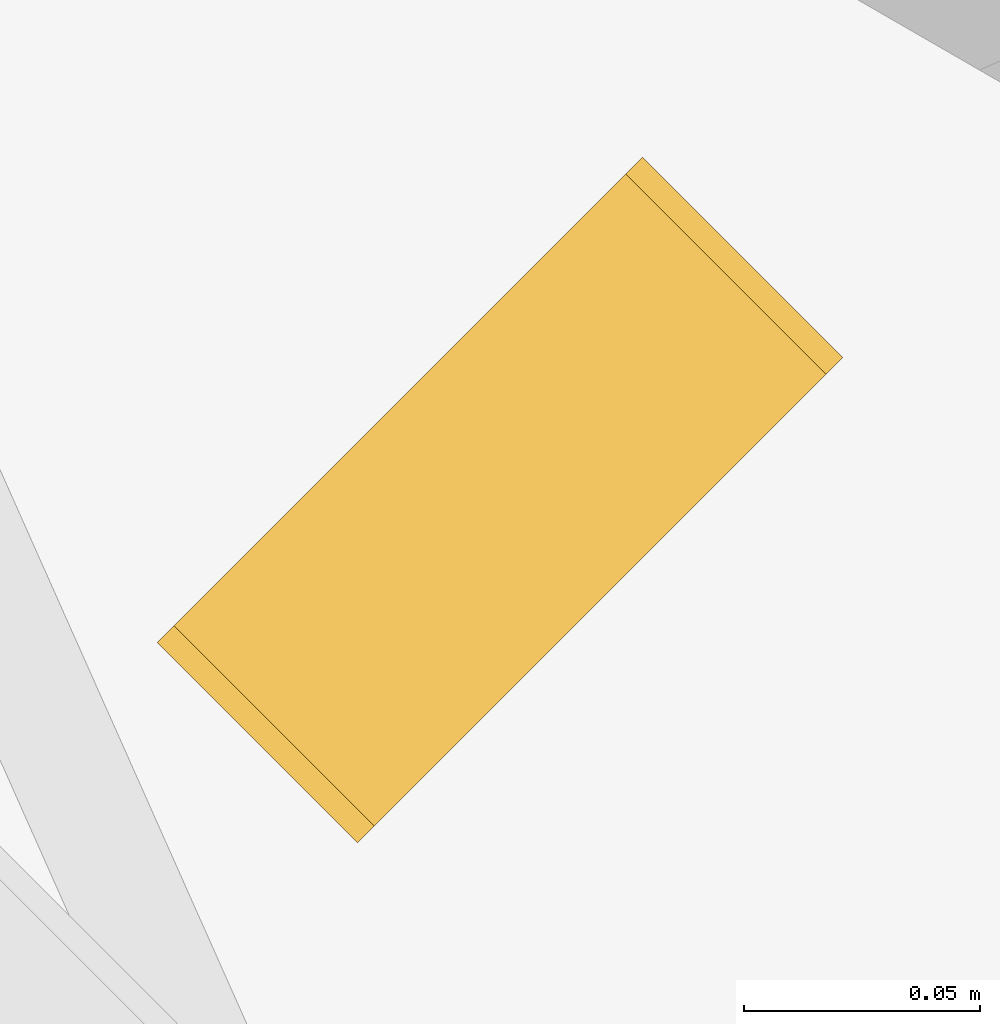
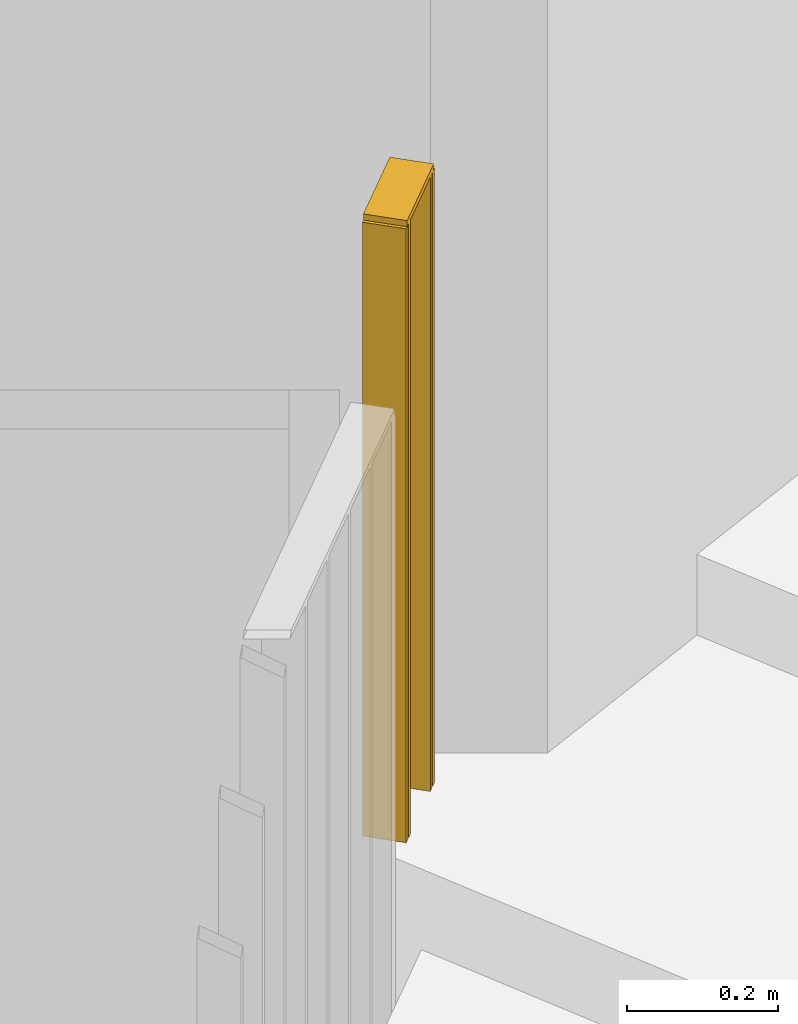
# One storey, part 17 of 19: 1 railing.
"""IFC2X3 building model written with IfcOpenShell, lengths in millimetres."""

import ifcopenshell
import ifcopenshell.guid

model = None  # the IFC model being written
_history = None  # IfcOwnerHistory: only IFC2X3 demands one
_inside = {}  # id of a spatial element -> (the spatial element, [elements in it])
_under = {}  # id of a project, library or spatial element -> (it, [spatial elements below it])
_declared = {}  # id of a project -> (the project, [libraries it declares])
_typed = {}  # id of a type object -> (the type object, [elements of that type])
_made_of = {}  # id of a material, layer set ... -> (it, [elements and type objects made of it])


def new_model(schema):
    """Start an empty IFC model of exactly this schema.

    Asked for "IFC4X3", IfcOpenShell would pick the latest addendum, in which some entities
    have other attributes; the version numbers below select the first issue.
    IFC2X3 requires an IfcOwnerHistory on every rooted entity: one is made here for all.
    """
    global model, _history
    if schema == "IFC4X3":
        model = ifcopenshell.file(schema_version=(4, 3, 0, 0))
    else:
        model = ifcopenshell.file(schema=schema)
    _inside.clear()
    _under.clear()
    _declared.clear()
    _typed.clear()
    _made_of.clear()
    _history = None
    if model.schema == "IFC2X3":
        org = make("IfcOrganization", Name="unknown")
        user = make(
            "IfcPersonAndOrganization",
            ThePerson=make("IfcPerson", FamilyName="unknown"),
            TheOrganization=org,
        )
        app = make(
            "IfcApplication",
            ApplicationDeveloper=org,
            Version="unknown",
            ApplicationFullName="unknown",
            ApplicationIdentifier="unknown",
        )
        _history = make(
            "IfcOwnerHistory",
            OwningUser=user,
            OwningApplication=app,
            ChangeAction="ADDED",
            CreationDate=0,
        )
    return model


def make(cls, **values):
    """One entity of the class cls with the attributes given. An attribute that is None is left unset."""
    return model.create_entity(
        cls, **{name: value for name, value in values.items() if value is not None}
    )


def entity(cls, *values):
    """Any entity or typed value of the class cls, its attributes in the order of the schema. None: left unset."""
    e = model.create_entity(cls)
    for i, value in enumerate(values):
        if value is not None:
            e[i] = value
    return e


def rooted(cls, **values):
    """An entity with a GlobalId (a new one), such as an element, a storey or a relation."""
    return make(cls, GlobalId=ifcopenshell.guid.new(), OwnerHistory=_history, **values)


def si_unit(unit_type, name, prefix=None):
    """IfcSIUnit, for example si_unit("LENGTHUNIT", "METRE", prefix="MILLI")."""
    return make("IfcSIUnit", UnitType=unit_type, Prefix=prefix, Name=name)


def converted_unit(unit_type, name, factor, base, dimensions=None, offset=None):
    """IfcConversionBasedUnit, such as the inch: factor (a typed value) times the base unit."""
    return make(
        "IfcConversionBasedUnit"
        if offset is None
        else "IfcConversionBasedUnitWithOffset",
        ConversionOffset=offset,
        Dimensions=None
        if dimensions is None
        else entity("IfcDimensionalExponents", *dimensions),
        UnitType=unit_type,
        Name=name,
        ConversionFactor=make(
            "IfcMeasureWithUnit", ValueComponent=factor, UnitComponent=base
        ),
    )


def derived_unit(unit_type, elements):
    """IfcDerivedUnit: a product of units, each with its exponent."""
    return make(
        "IfcDerivedUnit",
        Elements=[
            make("IfcDerivedUnitElement", Unit=unit, Exponent=power)
            for unit, power in elements
        ],
        UnitType=unit_type,
    )


def assignment(units):
    """IfcUnitAssignment: the units of a project."""
    return None if units is None else make("IfcUnitAssignment", Units=units)


def point(xyz):
    """IfcCartesianPoint."""
    return None if xyz is None else make("IfcCartesianPoint", Coordinates=xyz)


def direction(xyz):
    """IfcDirection."""
    return None if xyz is None else make("IfcDirection", DirectionRatios=xyz)


def frame(location, z_axis=None, x_axis=None):
    """IfcAxis2Placement3D, a coordinate frame: its origin and axes. An axis left out is left unset."""
    return make(
        "IfcAxis2Placement3D",
        Location=point(location),
        Axis=direction(z_axis),
        RefDirection=direction(x_axis),
    )


def frame_2d(location, x_axis=None):
    """IfcAxis2Placement2D, a coordinate frame in the plane: its origin and x axis."""
    return make(
        "IfcAxis2Placement2D", Location=point(location), RefDirection=direction(x_axis)
    )


def origin():
    """The frame at (0, 0, 0) with its axes left unset."""
    return frame((0.0, 0.0, 0.0))


def origin_2d_with_axis():
    """The frame at (0, 0) in the plane with the x axis (1, 0) written out."""
    return frame_2d((0.0, 0.0), x_axis=(1.0, 0.0))


def place(relative_to, where):
    """IfcLocalPlacement: puts the frame where relative to a parent placement (None: the world)."""
    return make(
        "IfcLocalPlacement", PlacementRelTo=relative_to, RelativePlacement=where
    )


def context(
    kind, dimensions, precision=None, world=None, true_north=None, identifier=None
):
    """IfcGeometricRepresentationContext, for example the 3D "Model" context."""
    return make(
        "IfcGeometricRepresentationContext",
        ContextIdentifier=identifier,
        ContextType=kind,
        CoordinateSpaceDimension=dimensions,
        Precision=precision,
        WorldCoordinateSystem=world,
        TrueNorth=true_north,
    )


def subcontext(parent, identifier, kind, view, scale=None):
    """IfcGeometricRepresentationSubContext, for example "Body" below "Model"."""
    return make(
        "IfcGeometricRepresentationSubContext",
        ContextIdentifier=identifier,
        ContextType=kind,
        ParentContext=parent,
        TargetScale=scale,
        TargetView=view,
    )


def project(units=None, contexts=None):
    """IfcProject with its units and contexts."""
    return rooted(
        "IfcProject",
        Name="project",
        RepresentationContexts=contexts,
        UnitsInContext=assignment(units),
    )


def spatial(cls, under=None, at=None, **own):
    """A site, building, storey or space (cls), placed at a placement, below another one or the project."""
    s = rooted(cls, ObjectPlacement=at, **own)
    if under is not None:
        _under.setdefault(under.id(), (under, []))[1].append(s)
    return s


def profile(cls, at=None, kind="AREA", **sizes):
    """A parametric profile (cls). Its sizes go by their IFC names, for example OverallWidth=200.0."""
    return make(cls, ProfileType=kind, Position=at, **sizes)


def rectangle(**sizes):
    """IfcRectangleProfileDef."""
    return profile("IfcRectangleProfileDef", **sizes)


def extrude(swept, where, along, depth):
    """IfcExtrudedAreaSolid: the profile swept, set in the frame where, extruded along a direction by depth."""
    return make(
        "IfcExtrudedAreaSolid",
        SweptArea=swept,
        Position=where,
        ExtrudedDirection=direction(along),
        Depth=depth,
    )


def shape(context_of_items, identifier, shape_type, items):
    """IfcShapeRepresentation: the items that make up one representation, for example the "Body"."""
    return make(
        "IfcShapeRepresentation",
        ContextOfItems=context_of_items,
        RepresentationIdentifier=identifier,
        RepresentationType=shape_type,
        Items=items,
    )


def material(Name=None, Category=None):
    """IfcMaterial."""
    return make("IfcMaterial", Name=Name, Category=Category)


def material_list(materials):
    """IfcMaterialList."""
    return make("IfcMaterialList", Materials=materials)


def made_of(thing, what):
    """Note that an element or type object is made of a material, layer set ...; save() writes the relation."""
    if what is not None:
        _made_of.setdefault(what.id(), (what, []))[1].append(thing)
    return thing


def element(
    cls,
    number,
    at=None,
    inside=None,
    cuts=None,
    type_object=None,
    material=None,
    context=None,
    identifier="Body",
    shape_type=None,
    held_by="IfcProductDefinitionShape",
    body=None,
    shapes=None,
    **own,
):
    """One element of the class cls, such as IfcWall. Its Tag is "e" and its number.

    at: its placement. inside: the storey or other place that contains it. cuts: it is an
    opening in that element (IfcRelVoidsElement). A single representation is given by context,
    identifier, shape_type and body (its items); several are given by shapes. held_by: the class
    of the entity that holds the representations. save() writes the other relations.
    """
    e = rooted(cls, Tag="e%d" % number, ObjectPlacement=at, **own)
    if body is not None:
        shapes = [shape(context, identifier, shape_type, body)]
    if shapes is not None:
        e.Representation = make(held_by, Representations=shapes)
    if inside is not None:
        _inside.setdefault(inside.id(), (inside, []))[1].append(e)
    if cuts is not None:
        rooted(
            "IfcRelVoidsElement", RelatingBuildingElement=cuts, RelatedOpeningElement=e
        )
    if type_object is not None:
        _typed.setdefault(type_object.id(), (type_object, []))[1].append(e)
    return made_of(e, material)


def aggregate(whole, parts):
    """IfcRelAggregates: a whole, such as a stair, and the parts it consists of."""
    return rooted("IfcRelAggregates", RelatingObject=whole, RelatedObjects=parts)


def save(model, path):
    """Write the relations noted so far, then the file.

    IfcRelAggregates (storeys below a building ...), IfcRelContainedInSpatialStructure (elements
    in a storey), IfcRelDefinesByType, IfcRelAssociatesMaterial and IfcRelDeclares: one each for
    every whole, place, type object, material and project.
    """
    for whole, parts in _under.values():
        aggregate(whole, parts)
    for where, things in _inside.values():
        rooted(
            "IfcRelContainedInSpatialStructure",
            RelatedElements=things,
            RelatingStructure=where,
        )
    for kind, things in _typed.values():
        rooted("IfcRelDefinesByType", RelatedObjects=things, RelatingType=kind)
    for what, things in _made_of.values():
        rooted("IfcRelAssociatesMaterial", RelatedObjects=things, RelatingMaterial=what)
    for by, libraries in _declared.values():
        rooted("IfcRelDeclares", RelatingContext=by, RelatedDefinitions=libraries)
    model.write(path)


model = new_model("IFC2X3")

# Units and contexts
model_context = context("Model", 3, precision=0.01, world=origin(), true_north=direction((6.123031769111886e-17, 1.0)))
body_context = subcontext(model_context, "Body", "Model", "MODEL_VIEW")
ifc_project = project(units=[si_unit("LENGTHUNIT", "METRE", prefix="MILLI"), si_unit("AREAUNIT", "SQUARE_METRE"), si_unit("VOLUMEUNIT", "CUBIC_METRE"), converted_unit("PLANEANGLEUNIT", "DEGREE", entity("IfcRatioMeasure", 0.017453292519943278), si_unit("PLANEANGLEUNIT", "RADIAN"), dimensions=[0, 0, 0, 0, 0, 0, 0]), si_unit("MASSUNIT", "GRAM", prefix="KILO"), derived_unit("MASSDENSITYUNIT", [(si_unit("MASSUNIT", "GRAM", prefix="KILO"), 1), (si_unit("LENGTHUNIT", "METRE"), -3)]), derived_unit("MOMENTOFINERTIAUNIT", [(si_unit("LENGTHUNIT", "METRE"), 4)]), si_unit("TIMEUNIT", "SECOND"), si_unit("FREQUENCYUNIT", "HERTZ"), si_unit("THERMODYNAMICTEMPERATUREUNIT", "DEGREE_CELSIUS"), derived_unit("THERMALTRANSMITTANCEUNIT", [(si_unit("MASSUNIT", "GRAM", prefix="KILO"), 1), (si_unit("THERMODYNAMICTEMPERATUREUNIT", "KELVIN"), -1), (si_unit("TIMEUNIT", "SECOND"), -3)]), derived_unit("VOLUMETRICFLOWRATEUNIT", [(si_unit("LENGTHUNIT", "METRE"), 3), (si_unit("TIMEUNIT", "SECOND"), -1)]), derived_unit("MASSFLOWRATEUNIT", [(si_unit("MASSUNIT", "GRAM", prefix="KILO"), 1), (si_unit("TIMEUNIT", "SECOND"), -1)]), derived_unit("ROTATIONALFREQUENCYUNIT", [(si_unit("TIMEUNIT", "SECOND"), -1)]), si_unit("ELECTRICCURRENTUNIT", "AMPERE"), si_unit("ELECTRICVOLTAGEUNIT", "VOLT"), si_unit("POWERUNIT", "WATT"), si_unit("FORCEUNIT", "NEWTON", prefix="KILO"), si_unit("ILLUMINANCEUNIT", "LUX"), si_unit("LUMINOUSFLUXUNIT", "LUMEN"), si_unit("LUMINOUSINTENSITYUNIT", "CANDELA"), derived_unit("USERDEFINED", [(si_unit("MASSUNIT", "GRAM", prefix="KILO"), -1), (si_unit("LENGTHUNIT", "METRE"), -2), (si_unit("TIMEUNIT", "SECOND"), 3), (si_unit("LUMINOUSFLUXUNIT", "LUMEN"), 1)]), derived_unit("SOUNDPOWERUNIT", [(si_unit("MASSUNIT", "GRAM", prefix="KILO"), 1), (si_unit("LENGTHUNIT", "METRE"), 2), (si_unit("TIMEUNIT", "SECOND"), -3)]), derived_unit("SOUNDPRESSUREUNIT", [(si_unit("MASSUNIT", "GRAM", prefix="KILO"), 1), (si_unit("LENGTHUNIT", "METRE"), -1), (si_unit("TIMEUNIT", "SECOND"), -2)]), derived_unit("LINEARVELOCITYUNIT", [(si_unit("LENGTHUNIT", "METRE"), 1), (si_unit("TIMEUNIT", "SECOND"), -1)]), si_unit("PRESSUREUNIT", "PASCAL"), derived_unit("USERDEFINED", [(si_unit("LENGTHUNIT", "METRE"), -2), (si_unit("MASSUNIT", "GRAM", prefix="KILO"), 1), (si_unit("TIMEUNIT", "SECOND"), -2)]), derived_unit("LINEARFORCEUNIT", [(si_unit("MASSUNIT", "GRAM", prefix="KILO"), 1), (si_unit("LENGTHUNIT", "METRE"), 1), (si_unit("TIMEUNIT", "SECOND"), -2), (si_unit("LENGTHUNIT", "METRE"), -1)]), derived_unit("PLANARFORCEUNIT", [(si_unit("MASSUNIT", "GRAM", prefix="KILO"), 1), (si_unit("LENGTHUNIT", "METRE"), 1), (si_unit("TIMEUNIT", "SECOND"), -2), (si_unit("LENGTHUNIT", "METRE"), -2)])], contexts=[model_context])

# Site, building, storey
site_placement = place(None, frame((-10000.0, -10000.0, 0.0)))
site = spatial("IfcSite", under=ifc_project, at=site_placement, Name="Default", CompositionType="ELEMENT")
building_placement = place(site_placement, origin())
building = spatial("IfcBuilding", under=site, at=building_placement, CompositionType="ELEMENT")
storey_placement = place(building_placement, frame((0.0, 0.0, 4200.0)))
storey = spatial("IfcBuildingStorey", under=building, at=storey_placement, Name="01 1e verdieping", CompositionType="ELEMENT", Elevation=4200.000000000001)

# Railing
ifc_material = material(Name="Default Metal")
ifc_material_list = material_list([ifc_material, ifc_material, ifc_material, ifc_material, ifc_material])
railing_placement = place(storey_placement, origin())
element("IfcRailing", 1, at=railing_placement, inside=storey, material=ifc_material_list, Name="Railing:NLRS_34_RAI_spijlenhekwerk hoofdtribune", ObjectType="Railing:NLRS_34_RAI_spijlenhekwerk hoofdtribune", PredefinedType="NOTDEFINED", context=body_context, shape_type="SweptSolid", body=[
    extrude(rectangle(XDim=10.00000000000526, YDim=59.999999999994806, at=origin_2d_with_axis()), frame((39661.86430460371, 47464.07176014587, 1585.0), z_axis=(0.0, 0.0, 1.0), x_axis=(0.7071067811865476, 0.7071067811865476, 0.0)), (0.0, 0.0, 1.0), 989.9999999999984),
    extrude(rectangle(XDim=10.00000000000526, YDim=59.999999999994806, at=origin_2d_with_axis()), frame((39584.082558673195, 47386.29001421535, 1585.0), z_axis=(0.0, 0.0, 1.0), x_axis=(0.7071067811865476, 0.7071067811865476, 0.0)), (0.0, 0.0, 1.0), 989.9999999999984),
    extrude(rectangle(XDim=10.00000000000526, YDim=59.999999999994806, at=origin_2d_with_axis()), frame((39670.80912717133, 47473.016582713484, 1585.0), z_axis=(0.0, 0.0, 1.0), x_axis=(0.7071067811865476, 0.7071067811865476, 0.0)), (0.0, 0.0, 1.0), 989.9999999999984),
    extrude(rectangle(XDim=10.00000000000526, YDim=59.999999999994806, at=origin_2d_with_axis()), frame((39575.13773610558, 47377.345191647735, 1585.0), z_axis=(0.0, 0.0, 1.0), x_axis=(0.7071067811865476, 0.7071067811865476, 0.0)), (0.0, 0.0, 1.0), 989.9999999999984),
    extrude(rectangle(XDim=135.29977877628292, YDim=59.999999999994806, at=frame_2d((6.124878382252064e-12, 0.0), x_axis=(1.0, 0.0))), frame((39622.97343163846, 47425.1808871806, 2575.0), z_axis=(0.0, 0.0, 1.0), x_axis=(0.7071067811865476, 0.7071067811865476, 0.0)), (0.0, 0.0, 1.0), 9.999999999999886),
])

save(model, "model.ifc")
